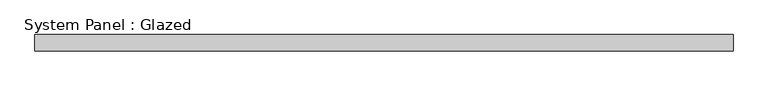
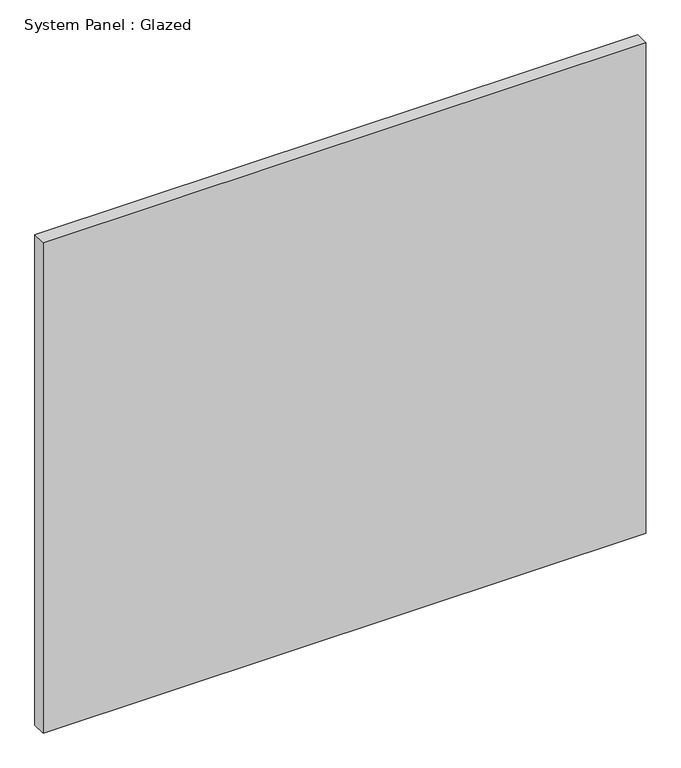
"""IFC4 building model written with IfcOpenShell, lengths in millimetres: plate geometry, System Panel : Glazed."""

from ifc_helpers import new_model, si_unit, origin, origin_with_axes, place, context, project, spatial, polyline, outline, extrude, source, transform, mapped, element, save


def system_panel_glazed_c118dd0e(model_context):
    return source(origin(), model_context, "Body", "SweptSolid", [
        extrude(outline(polyline([(537.5000001, 24.5), (-537.5000001, 24.5), (-537.5000001, 49.5), (537.5000001, 49.5), (537.5000001, 24.5)])), origin_with_axes(), (0.0, 0.0, 1.0), 925.0),
    ])


if __name__ == "__main__":
    model = new_model("IFC4")
    model_context = context("Model", 3, world=origin())
    ifc_project = project(units=[si_unit("LENGTHUNIT", "METRE", prefix="MILLI")], contexts=[model_context])
    site = spatial("IfcSite", under=ifc_project)
    building = spatial("IfcBuilding", under=site)
    placement = place(None, origin())
    system_panel_glazed_shape = system_panel_glazed_c118dd0e(model_context)
    element("IfcPlate", 1, ObjectType="System Panel : Glazed", at=placement, inside=building, context=model_context, shape_type="MappedRepresentation", body=[
        mapped(system_panel_glazed_shape, transform((0.0, 0.0, 0.0), x_axis=(1.0, 0.0, 0.0), y_axis=(0.0, 1.0, 0.0), z_axis=(0.0, 0.0, 1.0))),
    ])
    save(model, "model.ifc")
